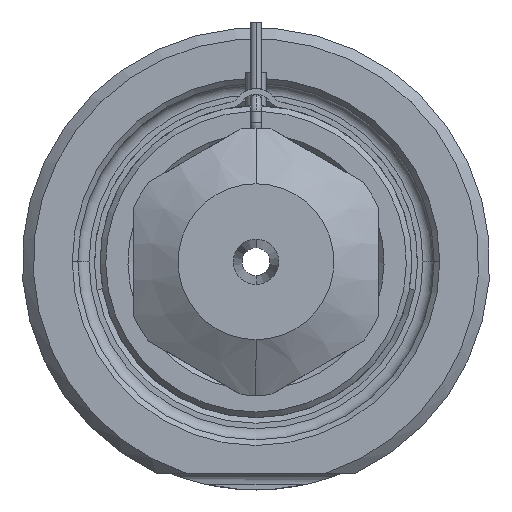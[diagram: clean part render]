
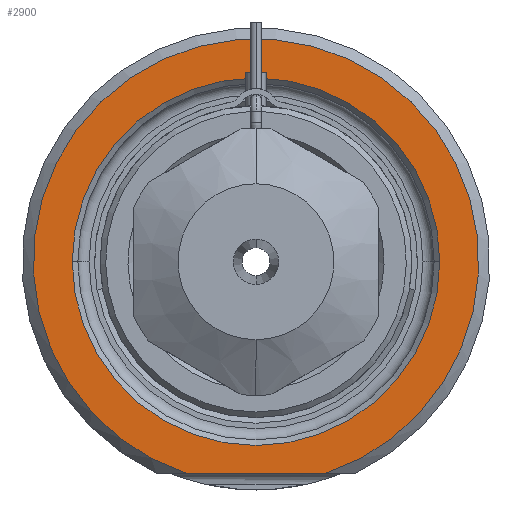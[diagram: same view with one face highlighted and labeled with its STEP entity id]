
A CAD part, front view. The second image highlights one B-rep face of the part: STEP entity #2900.
In plain terms, the highlighted planar face has unit normal (0, -1, 0).
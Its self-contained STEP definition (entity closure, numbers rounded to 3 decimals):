
#1=DIRECTION('',(1.,0.,0.));
#2=VECTOR('',#1,12.49);
#3=CARTESIAN_POINT('',(-6.245,0.,-19.));
#4=LINE('',#3,#2);
#5=CARTESIAN_POINT('',(0.,0.,0.));
#6=DIRECTION('',(0.,1.,0.));
#7=DIRECTION('',(-1.,0.,0.));
#8=AXIS2_PLACEMENT_3D('',#5,#6,#7);
#10=CARTESIAN_POINT('',(0.,0.,0.));
#11=DIRECTION('',(0.,1.,0.));
#12=DIRECTION('',(1.,0.,0.));
#13=AXIS2_PLACEMENT_3D('',#10,#11,#12);
#119=CARTESIAN_POINT('',(0.,0.,0.));
#120=DIRECTION('',(0.,-1.,0.));
#121=DIRECTION('',(0.312,0.,-0.95));
#122=AXIS2_PLACEMENT_3D('',#119,#120,#121);
#2420=CARTESIAN_POINT('',(-16.5,0.,0.));
#2421=CARTESIAN_POINT('',(16.5,0.,0.));
#2422=VERTEX_POINT('',#2420);
#2423=VERTEX_POINT('',#2421);
#2460=CARTESIAN_POINT('',(-6.245,0.,-19.));
#2461=CARTESIAN_POINT('',(6.245,0.,-19.));
#2462=VERTEX_POINT('',#2460);
#2463=VERTEX_POINT('',#2461);
#2883=CARTESIAN_POINT('',(0.,0.,0.));
#2884=DIRECTION('',(0.,-1.,0.));
#2885=DIRECTION('',(1.,0.,0.));
#2886=AXIS2_PLACEMENT_3D('',#2883,#2884,#2885);
#2887=PLANE('',#2886);
#2889=ORIENTED_EDGE('',*,*,#2888,.F.);
#2891=ORIENTED_EDGE('',*,*,#2890,.F.);
#2892=EDGE_LOOP('',(#2889,#2891));
#2893=FACE_OUTER_BOUND('',#2892,.F.);
#2895=ORIENTED_EDGE('',*,*,#2894,.F.);
#2897=ORIENTED_EDGE('',*,*,#2896,.F.);
#2898=EDGE_LOOP('',(#2895,#2897));
#2899=FACE_BOUND('',#2898,.F.);
#2900=ADVANCED_FACE('',(#2893,#2899),#2887,.T.);
#9=CIRCLE('',#8,16.5);
#14=CIRCLE('',#13,16.5);
#123=CIRCLE('',#122,20.);
#2888=EDGE_CURVE('',#2462,#2463,#4,.T.);
#2890=EDGE_CURVE('',#2463,#2462,#123,.T.);
#2894=EDGE_CURVE('',#2422,#2423,#9,.T.);
#2896=EDGE_CURVE('',#2423,#2422,#14,.T.);
